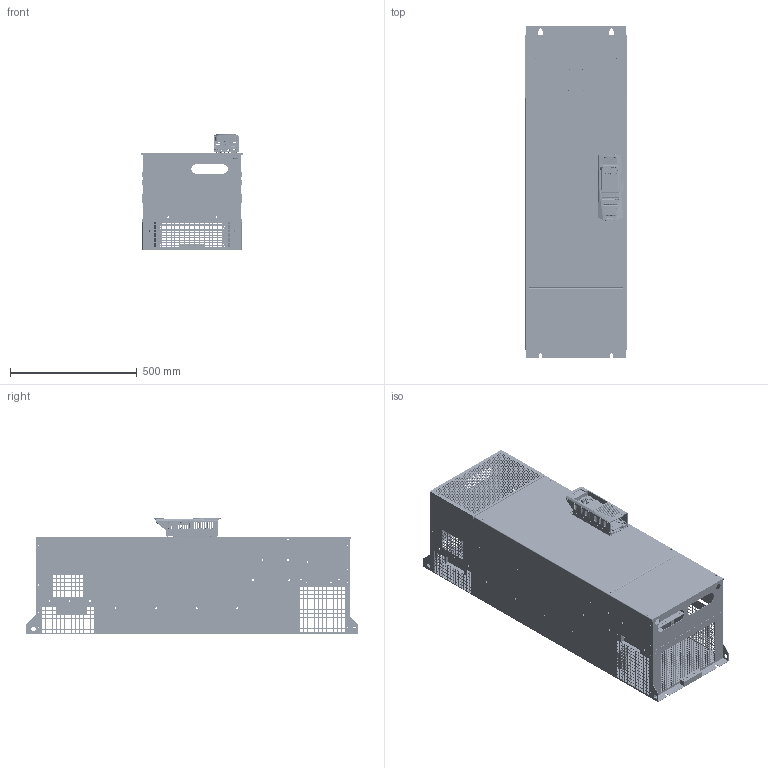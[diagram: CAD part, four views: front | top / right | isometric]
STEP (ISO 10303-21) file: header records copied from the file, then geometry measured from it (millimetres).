
FILE_DESCRIPTION(/* description */ (''),/* implementation_level */ '2;1');
FILE_NAME(/* name */ 'C:\1SSDE Vault\CAD\Users\Paul\AC30x_pdcts\AC30K\assy_pdct_AC30K_otln.stp',/* time_stamp */ '2015-11-17T12:19:21+00:00',/* author */ ('pw037365'),/* organization */ (''),/* preprocessor_version */ 'ST-DEVELOPER v15.2',/* originating_system */ 'Autodesk Inventor 2014',/* authorisation */ '');
FILE_SCHEMA (('AUTOMOTIVE_DESIGN { 1 0 10303 214 3 1 1 }'));
Products named in the file (28): X301-NEW; X302; X307; X311; X308; X309; assy_pdct_C9; cvr_fr_shtm_400_1thk5; cvr_trm_shtm_400_1thk5; brkt_ptfm_shtm_vcm_szK; S-M3-1 ZI; S-M4-1 ZI; SO4-M4-4; FH-M4-18 ZI; ccpt_pdct_250kW; BB501373v26a_hsng_cst_bk; BB501372v22_hsng_cst_fr; BD501377U000v25_CVR_FR_UPPER; BD501376U000v18_CVR_FR_LWR_QUALIFICATION; oass_gkp_7001; CI501525U006; CI501526U004; skt_th_45deg_rj45_21h_CI501527_1; skt_s_ra_rj11_4w_12h_CI501543_1; skt_s_ra_2x3_6h_2p54_CI501545U006_1; hsng_assy_vcm_otln; assy_pdct_AC30K_otln
Bounding box: 400 x 1310 x 458.87 mm (x, y, z)
Volume: 4834006.6 mm3; surface area: 5210768.8 mm2
Topology: 31 solids, 34 shells, 15360 faces, 43876 edges, 28548 vertices
Faces by surface type: plane 10420, cylinder 3533, bspline 695, cone 313, torus 236, sphere 163
Full cylindrical faces by diameter (mm): 0.8 x2, 1.2 x28, 2 x2, 2.459 x1, 3 x1, 3.2 x2, 3.242 x3, 3.346 x1, 3.492 x1, 3.5 x33, 3.7 x8, 3.9 x7, 4 x68, 4.22 x1, 4.3 x1, 4.5 x7, 5 x1730, 5.38 x2, 5.46 x1, 5.9 x6, 6 x19, 6.3 x1, 6.72 x1, 6.84 x2, 7 x43, 7.12 x3, 7.5 x2, 7.9 x2, 8 x2, 10 x12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
Entity records: 493944 total; most frequent: CARTESIAN_POINT 123624, ORIENTED_EDGE 74504, DIRECTION 70963, EDGE_CURVE 37236, LINE 27941, VECTOR 27941, VERTEX_POINT 25570, EDGE_LOOP 23052
